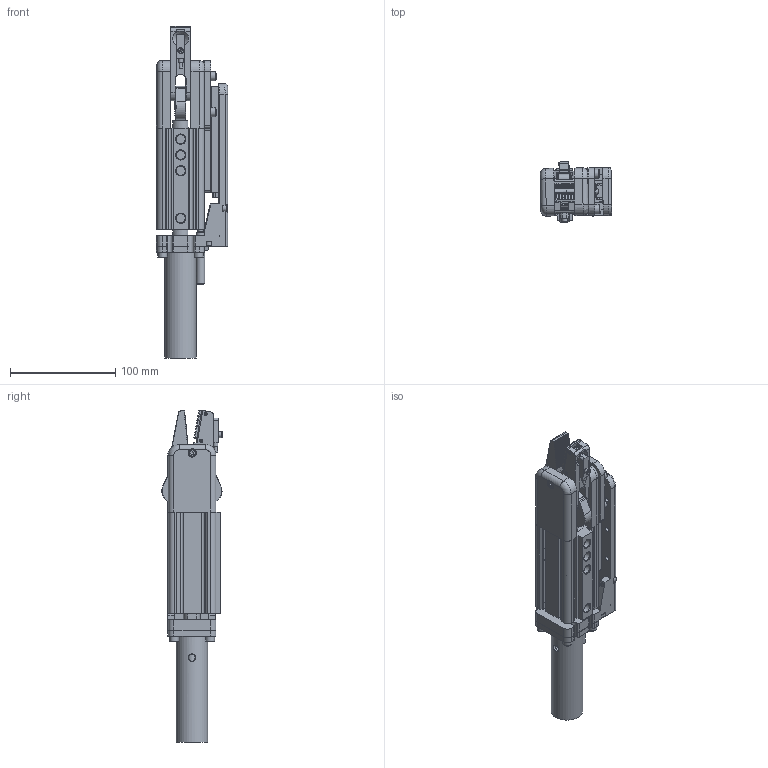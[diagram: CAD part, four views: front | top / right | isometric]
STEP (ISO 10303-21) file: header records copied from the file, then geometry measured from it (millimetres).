
FILE_DESCRIPTION(/* description */ (''),/* implementation_level */ '2;1');
FILE_NAME(/* name */ '8Y00464-GRP32A-30CP--30.stp',/* time_stamp */ '2023-02-22T13:10:34+08:00',/* author */ (''),/* organization */ (''),/* preprocessor_version */ 'ST-DEVELOPER v16',/* originating_system */ 'SIEMENS PLM Software NX 10.0',/* authorisation */ '');
FILE_SCHEMA (('AUTOMOTIVE_DESIGN { 1 0 10303 214 3 1 1 1 }'));
Products named in the file (1): _model39
Bounding box: 67.52 x 57.23 x 314.73 mm (x, y, z)
Volume: 412080.3 mm3; surface area: 159420.4 mm2
Topology: 17 solids, 40 shells, 2047 faces, 4752 edges, 2785 vertices
Faces by surface type: plane 1481, cylinder 350, cone 154, torus 36, sphere 15, bspline 11
Full cylindrical faces by diameter (mm): 2.4 x1, 2.5 x4, 3 x5, 3.1 x1, 3.3 x6, 3.4 x3, 4 x12, 4.1 x1, 4.2 x14, 4.5 x11, 5 x14, 5.2 x8, 5.5 x9, 6 x9, 6.5 x1, 6.647 x1, 7 x12, 8 x10, 8.1 x1, 8.5 x13, 8.566 x4, 9 x12, 10 x5, 13 x1, 13.5 x1, 14 x1, 15 x2, 16 x3, 17 x12, 20 x3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
Entity records: 73987 total; most frequent: CARTESIAN_POINT 15750, DIRECTION 9183, ORIENTED_EDGE 8324, EDGE_CURVE 4162, AXIS2_PLACEMENT_3D 3128, LINE 2927, VECTOR 2927, VERTEX_POINT 2630
